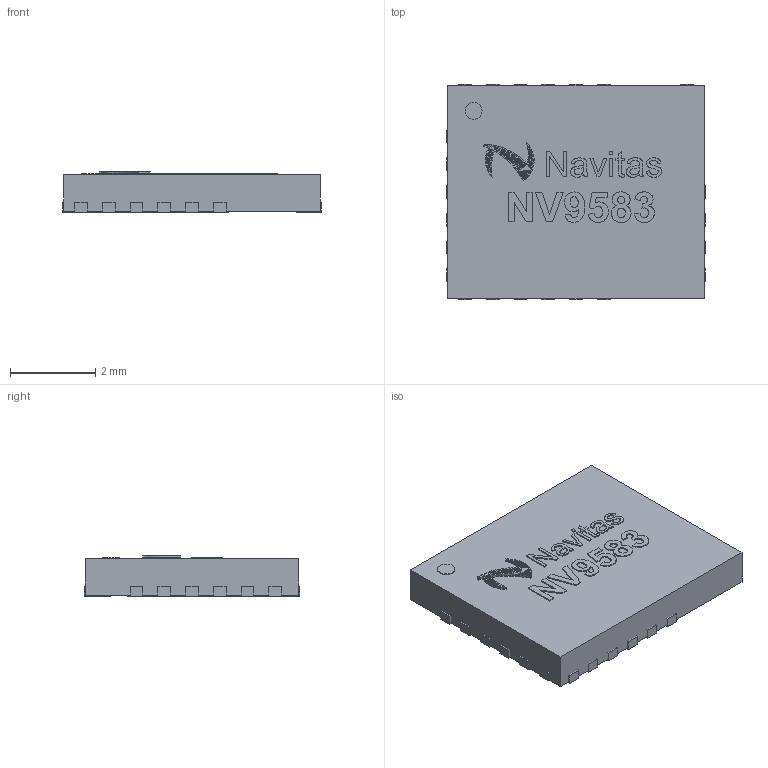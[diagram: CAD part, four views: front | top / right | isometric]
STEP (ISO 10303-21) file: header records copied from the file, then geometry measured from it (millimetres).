
FILE_DESCRIPTION(/* description */ (''),/* implementation_level */ '2;1');
FILE_NAME(/* name */ 'NV9583.step',/* time_stamp */ '2023-02-12T11:46:49-08:00',/* author */ (''),/* organization */ (''),/* preprocessor_version */ 'ST-DEVELOPER v19.2',/* originating_system */ 'Autodesk Translation Framework v11.17.0.187',/* authorisation */ '');
FILE_SCHEMA (('AUTOMOTIVE_DESIGN { 1 0 10303 214 3 1 1 }'));
Length unit declared in the file: millimetre
Products named in the file (1): NV9580
Bounding box: 6.05 x 5.05 x 0.94 mm (x, y, z)
Volume: 29.2 mm3; surface area: 126.4 mm2
Topology: 27 solids, 27 shells, 1281 faces, 2412 edges, 1185 vertices
Faces by surface type: plane 1068, bspline 201, cylinder 12
Full cylindrical faces by diameter (mm): 0.4 x1
Entity records: 31682 total; most frequent: CARTESIAN_POINT 8296, ORIENTED_EDGE 4824, DIRECTION 4196, EDGE_CURVE 2412, LINE 1986, VECTOR 1986, EDGE_LOOP 1291, FACE_OUTER_BOUND 1281
